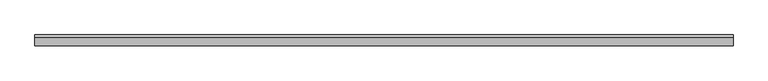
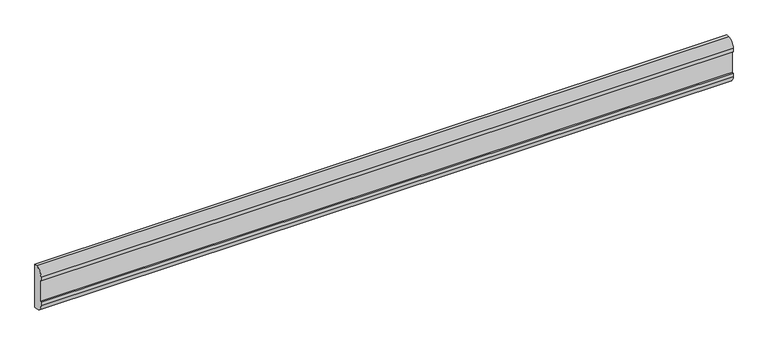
"""IFC4 building model written with IfcOpenShell, lengths in millimetres: furniture geometry, BIMHealth-Dado_Trunking_Recessed_Non-Wall-Hosted-LOD2A-v1 : BIMHealth-Dado_Trunking_Recessed_Non-Wall-Hosted-LOD2A-v1."""

import ifcopenshell
import ifcopenshell.guid

model = None  # the IFC model being written
_history = None  # IfcOwnerHistory: only IFC2X3 demands one
_inside = {}  # id of a spatial element -> (the spatial element, [elements in it])
_under = {}  # id of a project, library or spatial element -> (it, [spatial elements below it])
_declared = {}  # id of a project -> (the project, [libraries it declares])
_typed = {}  # id of a type object -> (the type object, [elements of that type])
_made_of = {}  # id of a material, layer set ... -> (it, [elements and type objects made of it])


def new_model(schema):
    """Start an empty IFC model of exactly this schema.

    Asked for "IFC4X3", IfcOpenShell would pick the latest addendum, in which some entities
    have other attributes; the version numbers below select the first issue.
    IFC2X3 requires an IfcOwnerHistory on every rooted entity: one is made here for all.
    """
    global model, _history
    if schema == "IFC4X3":
        model = ifcopenshell.file(schema_version=(4, 3, 0, 0))
    else:
        model = ifcopenshell.file(schema=schema)
    _inside.clear()
    _under.clear()
    _declared.clear()
    _typed.clear()
    _made_of.clear()
    _history = None
    if model.schema == "IFC2X3":
        org = make("IfcOrganization", Name="unknown")
        user = make(
            "IfcPersonAndOrganization",
            ThePerson=make("IfcPerson", FamilyName="unknown"),
            TheOrganization=org,
        )
        app = make(
            "IfcApplication",
            ApplicationDeveloper=org,
            Version="unknown",
            ApplicationFullName="unknown",
            ApplicationIdentifier="unknown",
        )
        _history = make(
            "IfcOwnerHistory",
            OwningUser=user,
            OwningApplication=app,
            ChangeAction="ADDED",
            CreationDate=0,
        )
    return model


def make(cls, **values):
    """One entity of the class cls with the attributes given. An attribute that is None is left unset."""
    return model.create_entity(
        cls, **{name: value for name, value in values.items() if value is not None}
    )


def rooted(cls, **values):
    """An entity with a GlobalId (a new one), such as an element, a storey or a relation."""
    return make(cls, GlobalId=ifcopenshell.guid.new(), OwnerHistory=_history, **values)


def si_unit(unit_type, name, prefix=None):
    """IfcSIUnit, for example si_unit("LENGTHUNIT", "METRE", prefix="MILLI")."""
    return make("IfcSIUnit", UnitType=unit_type, Prefix=prefix, Name=name)


def assignment(units):
    """IfcUnitAssignment: the units of a project."""
    return None if units is None else make("IfcUnitAssignment", Units=units)


def point(xyz):
    """IfcCartesianPoint."""
    return None if xyz is None else make("IfcCartesianPoint", Coordinates=xyz)


def direction(xyz):
    """IfcDirection."""
    return None if xyz is None else make("IfcDirection", DirectionRatios=xyz)


def frame(location, z_axis=None, x_axis=None):
    """IfcAxis2Placement3D, a coordinate frame: its origin and axes. An axis left out is left unset."""
    return make(
        "IfcAxis2Placement3D",
        Location=point(location),
        Axis=direction(z_axis),
        RefDirection=direction(x_axis),
    )


def frame_2d(location, x_axis=None):
    """IfcAxis2Placement2D, a coordinate frame in the plane: its origin and x axis."""
    return make(
        "IfcAxis2Placement2D", Location=point(location), RefDirection=direction(x_axis)
    )


def origin():
    """The frame at (0, 0, 0) with its axes left unset."""
    return frame((0.0, 0.0, 0.0))


def place(relative_to, where):
    """IfcLocalPlacement: puts the frame where relative to a parent placement (None: the world)."""
    return make(
        "IfcLocalPlacement", PlacementRelTo=relative_to, RelativePlacement=where
    )


def context(
    kind, dimensions, precision=None, world=None, true_north=None, identifier=None
):
    """IfcGeometricRepresentationContext, for example the 3D "Model" context."""
    return make(
        "IfcGeometricRepresentationContext",
        ContextIdentifier=identifier,
        ContextType=kind,
        CoordinateSpaceDimension=dimensions,
        Precision=precision,
        WorldCoordinateSystem=world,
        TrueNorth=true_north,
    )


def project(units=None, contexts=None):
    """IfcProject with its units and contexts."""
    return rooted(
        "IfcProject",
        Name="project",
        RepresentationContexts=contexts,
        UnitsInContext=assignment(units),
    )


def spatial(cls, under=None, at=None, **own):
    """A site, building, storey or space (cls), placed at a placement, below another one or the project."""
    s = rooted(cls, ObjectPlacement=at, **own)
    if under is not None:
        _under.setdefault(under.id(), (under, []))[1].append(s)
    return s


def polyline(points):
    """IfcPolyline through the points."""
    return make("IfcPolyline", Points=[point(p) for p in points])


def circle_curve(where, radius):
    """IfcCircle in the frame where."""
    return make("IfcCircle", Position=where, Radius=radius)


def trimmed(basis, trim1, trim2, sense, master):
    """IfcTrimmedCurve: the piece of a basis curve between two trims."""
    return make(
        "IfcTrimmedCurve",
        BasisCurve=basis,
        Trim1=trim1,
        Trim2=trim2,
        SenseAgreement=sense,
        MasterRepresentation=master,
    )


def segment(curve, same_sense, transition):
    """IfcCompositeCurveSegment."""
    return make(
        "IfcCompositeCurveSegment",
        Transition=transition,
        SameSense=same_sense,
        ParentCurve=curve,
    )


def composite_curve(segments, self_intersect=None):
    """IfcCompositeCurve: segments joined end to end."""
    return make("IfcCompositeCurve", Segments=segments, SelfIntersect=self_intersect)


def outline(outer, holes=None, kind="AREA"):
    """IfcArbitraryClosedProfileDef: a profile drawn as a closed curve; with holes, ...WithVoids."""
    if holes is None:
        return make("IfcArbitraryClosedProfileDef", ProfileType=kind, OuterCurve=outer)
    return make(
        "IfcArbitraryProfileDefWithVoids",
        ProfileType=kind,
        OuterCurve=outer,
        InnerCurves=holes,
    )


def extrude(swept, where, along, depth):
    """IfcExtrudedAreaSolid: the profile swept, set in the frame where, extruded along a direction by depth."""
    return make(
        "IfcExtrudedAreaSolid",
        SweptArea=swept,
        Position=where,
        ExtrudedDirection=direction(along),
        Depth=depth,
    )


def shape(context_of_items, identifier, shape_type, items):
    """IfcShapeRepresentation: the items that make up one representation, for example the "Body"."""
    return make(
        "IfcShapeRepresentation",
        ContextOfItems=context_of_items,
        RepresentationIdentifier=identifier,
        RepresentationType=shape_type,
        Items=items,
    )


def source(mapping_origin, context_of_items, identifier, shape_type, items):
    """IfcRepresentationMap: a shape defined once, which mapped items show again and again."""
    return make(
        "IfcRepresentationMap",
        MappingOrigin=mapping_origin,
        MappedRepresentation=shape(context_of_items, identifier, shape_type, items),
    )


def transform(
    local_origin,
    x_axis=None,
    y_axis=None,
    z_axis=None,
    scale=None,
    scale2=None,
    scale3=None,
    uniform=True,
):
    """IfcCartesianTransformationOperator3D, or its non-uniform kind. x_axis, y_axis, z_axis: its Axis1, 2, 3."""
    if uniform:
        return make(
            "IfcCartesianTransformationOperator3D",
            Axis1=direction(x_axis),
            Axis2=direction(y_axis),
            LocalOrigin=point(local_origin),
            Scale=scale,
            Axis3=direction(z_axis),
        )
    return make(
        "IfcCartesianTransformationOperator3DnonUniform",
        Axis1=direction(x_axis),
        Axis2=direction(y_axis),
        LocalOrigin=point(local_origin),
        Scale=scale,
        Axis3=direction(z_axis),
        Scale2=scale2,
        Scale3=scale3,
    )


def mapped(mapping_source, mapping_target):
    """IfcMappedItem: shows the shape of a source again, moved by a transform."""
    return make(
        "IfcMappedItem", MappingSource=mapping_source, MappingTarget=mapping_target
    )


def made_of(thing, what):
    """Note that an element or type object is made of a material, layer set ...; save() writes the relation."""
    if what is not None:
        _made_of.setdefault(what.id(), (what, []))[1].append(thing)
    return thing


def element(
    cls,
    number,
    at=None,
    inside=None,
    cuts=None,
    type_object=None,
    material=None,
    context=None,
    identifier="Body",
    shape_type=None,
    held_by="IfcProductDefinitionShape",
    body=None,
    shapes=None,
    **own,
):
    """One element of the class cls, such as IfcWall. Its Tag is "e" and its number.

    at: its placement. inside: the storey or other place that contains it. cuts: it is an
    opening in that element (IfcRelVoidsElement). A single representation is given by context,
    identifier, shape_type and body (its items); several are given by shapes. held_by: the class
    of the entity that holds the representations. save() writes the other relations.
    """
    e = rooted(cls, Tag="e%d" % number, ObjectPlacement=at, **own)
    if body is not None:
        shapes = [shape(context, identifier, shape_type, body)]
    if shapes is not None:
        e.Representation = make(held_by, Representations=shapes)
    if inside is not None:
        _inside.setdefault(inside.id(), (inside, []))[1].append(e)
    if cuts is not None:
        rooted(
            "IfcRelVoidsElement", RelatingBuildingElement=cuts, RelatedOpeningElement=e
        )
    if type_object is not None:
        _typed.setdefault(type_object.id(), (type_object, []))[1].append(e)
    return made_of(e, material)


def aggregate(whole, parts):
    """IfcRelAggregates: a whole, such as a stair, and the parts it consists of."""
    return rooted("IfcRelAggregates", RelatingObject=whole, RelatedObjects=parts)


def save(model, path):
    """Write the relations noted so far, then the file.

    IfcRelAggregates (storeys below a building ...), IfcRelContainedInSpatialStructure (elements
    in a storey), IfcRelDefinesByType, IfcRelAssociatesMaterial and IfcRelDeclares: one each for
    every whole, place, type object, material and project.
    """
    for whole, parts in _under.values():
        aggregate(whole, parts)
    for where, things in _inside.values():
        rooted(
            "IfcRelContainedInSpatialStructure",
            RelatedElements=things,
            RelatingStructure=where,
        )
    for kind, things in _typed.values():
        rooted("IfcRelDefinesByType", RelatedObjects=things, RelatingType=kind)
    for what, things in _made_of.values():
        rooted("IfcRelAssociatesMaterial", RelatedObjects=things, RelatingMaterial=what)
    for by, libraries in _declared.values():
        rooted("IfcRelDeclares", RelatingContext=by, RelatedDefinitions=libraries)
    model.write(path)


def furniture_c4e44aa8(model_context):
    return source(origin(), model_context, "Body", "SweptSolid", [
        extrude(outline(composite_curve([segment(polyline([(0.0, 1100.0), (-20.0, 1100.0)]), True, "CONTINUOUS"), segment(trimmed(circle_curve(frame_2d((-20.0, 1150.0)), 50.0), [point((-20.0, 1100.0))], [point((-70.0, 1150.0))], False, "CARTESIAN"), True, "CONTINUOUS"), segment(polyline([(-70.0, 1150.0), (-70.0, 1175.0), (-60.0, 1175.0), (-60.0, 1325.0), (-70.0, 1325.0), (-70.0, 1350.0)]), True, "CONTINUOUS"), segment(trimmed(circle_curve(frame_2d((-20.0, 1350.0)), 50.0), [point((-70.0, 1350.0))], [point((-20.0, 1400.0))], False, "CARTESIAN"), True, "CONTINUOUS"), segment(polyline([(-20.0, 1400.0), (0.0, 1400.0), (0.0, 1100.0)]), True, "CONTINUOUS")], self_intersect=False)), frame((-2287.5, 0.0, 0.0), z_axis=(1.0, 0.0, 0.0), x_axis=(0.0, 1.0, 0.0)), (0.0, 0.0, 1.0), 4575.0),
    ])


if __name__ == "__main__":
    model = new_model("IFC4")
    model_context = context("Model", 3, world=origin())
    ifc_project = project(units=[si_unit("LENGTHUNIT", "METRE", prefix="MILLI")], contexts=[model_context])
    site = spatial("IfcSite", under=ifc_project)
    building = spatial("IfcBuilding", under=site)
    placement = place(None, origin())
    furniture_shape = furniture_c4e44aa8(model_context)
    element("IfcFurniture", 1, ObjectType="BIMHealth-Dado_Trunking_Recessed_Non-Wall-Hosted-LOD2A-v1 : BIMHealth-Dado_Trunking_Recessed_Non-Wall-Hosted-LOD2A-v1", at=placement, inside=building, context=model_context, shape_type="MappedRepresentation", body=[
        mapped(furniture_shape, transform((0.0, 0.0, 0.0), x_axis=(1.0, 0.0, 0.0), y_axis=(0.0, 1.0, 0.0), z_axis=(0.0, 0.0, 1.0))),
    ])
    save(model, "model.ifc")
